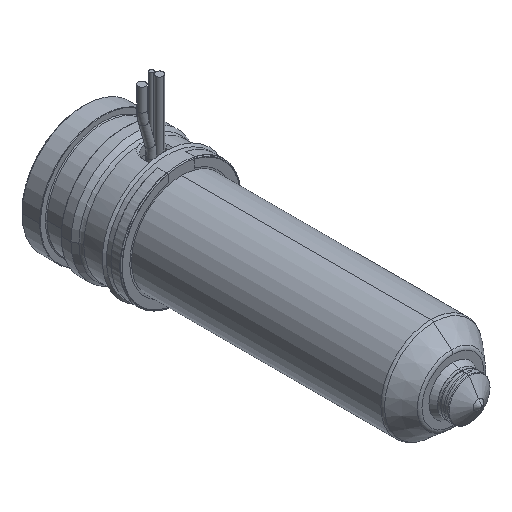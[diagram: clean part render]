
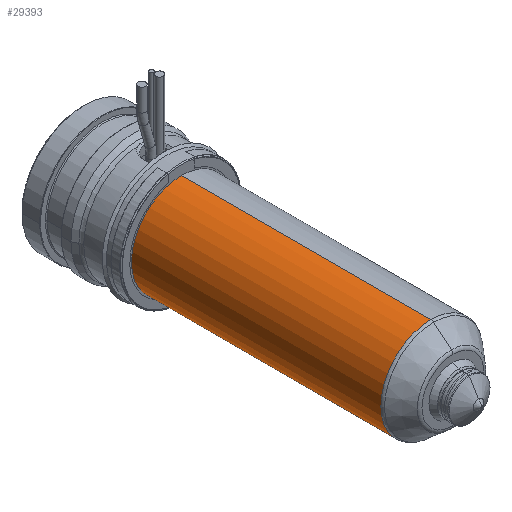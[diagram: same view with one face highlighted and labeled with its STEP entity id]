
A CAD part, isometric view. The second image highlights one B-rep face of the part: STEP entity #29393.
In plain terms, the highlighted cylindrical face has radius 12 mm (diameter 24 mm), a partial arc.
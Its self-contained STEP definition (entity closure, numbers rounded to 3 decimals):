
#28878=CARTESIAN_POINT('',(0.,-24.,0.));
#28879=DIRECTION('',(0.,1.,0.));
#28880=DIRECTION('',(0.,0.,-1.));
#28881=AXIS2_PLACEMENT_3D('',#28878,#28879,#28880);
#28886=DIRECTION('',(0.,1.,0.));
#28887=VECTOR('',#28886,59.736);
#28888=CARTESIAN_POINT('',(0.,-83.736,12.));
#28889=LINE('',#28888,#28887);
#28901=DIRECTION('',(0.,1.,0.));
#28902=VECTOR('',#28901,59.736);
#28903=CARTESIAN_POINT('',(0.,-83.736,-12.));
#28904=LINE('',#28903,#28902);
#28932=CARTESIAN_POINT('',(0.,-83.736,0.));
#28933=DIRECTION('',(0.,-1.,0.));
#28934=DIRECTION('',(0.,0.,1.));
#28935=AXIS2_PLACEMENT_3D('',#28932,#28933,#28934);
#29262=CARTESIAN_POINT('',(0.,-83.736,12.));
#29263=CARTESIAN_POINT('',(0.,-24.,12.));
#29264=VERTEX_POINT('',#29262);
#29265=VERTEX_POINT('',#29263);
#29266=CARTESIAN_POINT('',(0.,-83.736,-12.));
#29267=CARTESIAN_POINT('',(0.,-24.,-12.));
#29268=VERTEX_POINT('',#29266);
#29269=VERTEX_POINT('',#29267);
#29379=CARTESIAN_POINT('',(0.,-16.2,0.));
#29380=DIRECTION('',(0.,-1.,0.));
#29381=DIRECTION('',(0.,0.,1.));
#29382=AXIS2_PLACEMENT_3D('',#29379,#29380,#29381);
#29383=CYLINDRICAL_SURFACE('',#29382,12.);
#29385=ORIENTED_EDGE('',*,*,#29384,.F.);
#29387=ORIENTED_EDGE('',*,*,#29386,.T.);
#29389=ORIENTED_EDGE('',*,*,#29388,.T.);
#29390=ORIENTED_EDGE('',*,*,#29372,.T.);
#29391=EDGE_LOOP('',(#29385,#29387,#29389,#29390));
#29392=FACE_OUTER_BOUND('',#29391,.F.);
#29393=ADVANCED_FACE('',(#29392),#29383,.T.);
#28882=CIRCLE('',#28881,12.);
#28936=CIRCLE('',#28935,12.);
#29372=EDGE_CURVE('',#29269,#29265,#28882,.T.);
#29384=EDGE_CURVE('',#29264,#29265,#28889,.T.);
#29386=EDGE_CURVE('',#29264,#29268,#28936,.T.);
#29388=EDGE_CURVE('',#29268,#29269,#28904,.T.);
